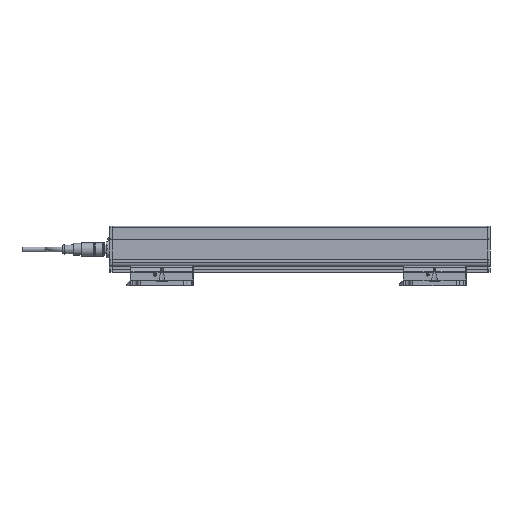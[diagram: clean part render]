
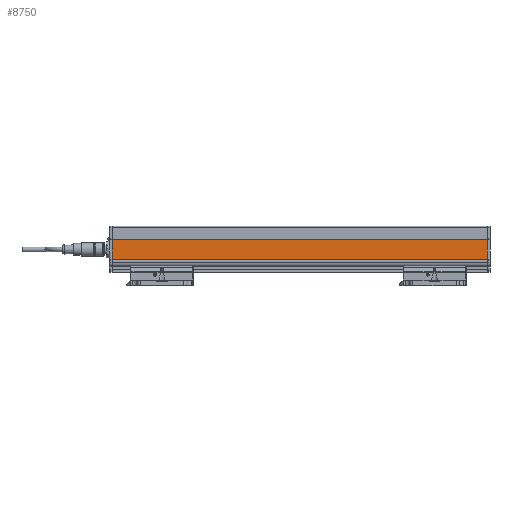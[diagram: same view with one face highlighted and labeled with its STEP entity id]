
A CAD part, front view. The second image highlights one B-rep face of the part: STEP entity #8750.
In plain terms, the highlighted planar face has unit normal (0, -1, 0).
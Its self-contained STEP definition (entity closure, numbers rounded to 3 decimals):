
#8750=ADVANCED_FACE('', (#8760), #8770, .T.);
#79610=AXIS2_PLACEMENT_3D('Ax2Pl3d', #79620, #79630, #79640);
#316190=CARTESIAN_POINT('', (-767.169,-564.87,
344.664));
#316200=CARTESIAN_POINT('', (-767.169,-564.87,
365.637));
#316210=CARTESIAN_POINT('', (-767.169,-564.87,
365.637));
#316470=CARTESIAN_POINT('', (-368.169,-564.87,
365.637));
#316480=CARTESIAN_POINT('', (-368.169,-564.87,
344.664));
#316490=CARTESIAN_POINT('', (-368.169,-564.87,
344.664));
#317240=CARTESIAN_POINT('', (-767.169,-564.87,
344.664));
#79620=CARTESIAN_POINT('HicPkt', (-767.169,-564.87,
344.664));
#317250=CARTESIAN_POINT('', (-767.169,-564.87,
365.637));
#514350=DIRECTION('', (0.,0.,1.));
#514510=DIRECTION('', (0.,0.,-1.));
#514980=DIRECTION('', (-1.,0.,0.));
#79630=DIRECTION('Axis', (0.,-1.,
0.));
#79640=DIRECTION('RefDirection', (0.,
0.,-1.));
#514990=DIRECTION('', (-1.,0.,0.));
#549840=EDGE_CURVE('', #549820, #549850, #549860, .T.);
#550300=EDGE_CURVE('', #550280, #550310, #550320, .T.);
#551640=EDGE_CURVE('', #550310, #549820, #551650, .T.);
#551660=EDGE_CURVE('', #550280, #549850, #551670, .T.);
#657360=EDGE_LOOP('Edge_loop', (#657370,#657380,#657390,#657400));
#8760=FACE_OUTER_BOUND('Face_outer_bound', #657360, .T.);
#549860=LINE('Line', #316200, #762140);
#550320=LINE('Line', #316480, #762300);
#551650=LINE('Line', #317240, #762770);
#551670=LINE('Line', #317250, #762780);
#657370=ORIENTED_EDGE('', *, *, #549840, .F.);
#657380=ORIENTED_EDGE('', *, *, #551640, .F.);
#657390=ORIENTED_EDGE('', *, *, #550300, .F.);
#657400=ORIENTED_EDGE('', *, *, #551660, .T.);
#8770=PLANE('Plane', #79610);
#762140=VECTOR('', #514350, 20.973);
#762300=VECTOR('', #514510, 20.973);
#762770=VECTOR('', #514980, 399.);
#762780=VECTOR('', #514990, 399.);
#549820=VERTEX_POINT('', #316190);
#549850=VERTEX_POINT('', #316210);
#550280=VERTEX_POINT('', #316470);
#550310=VERTEX_POINT('', #316490);
